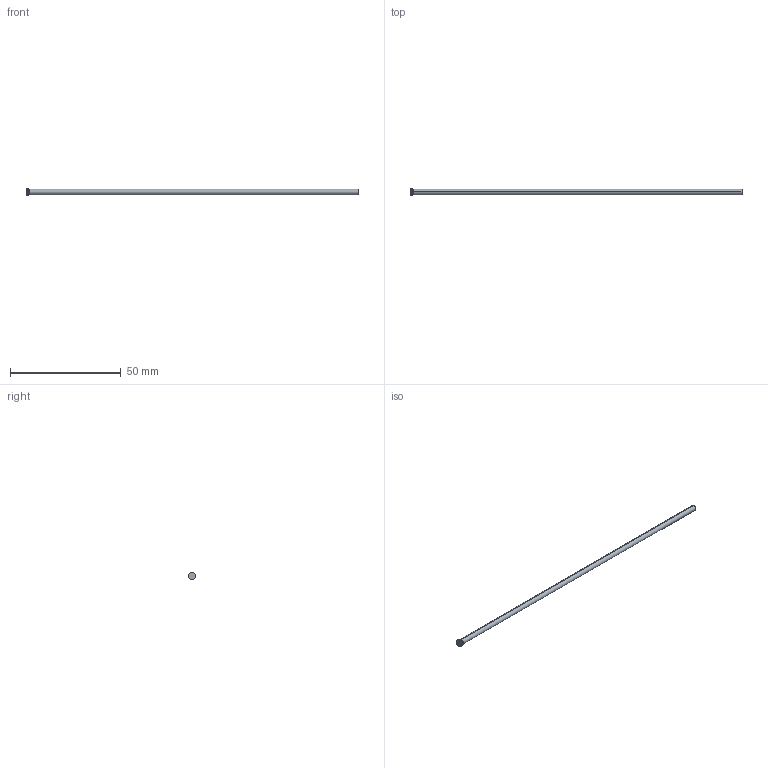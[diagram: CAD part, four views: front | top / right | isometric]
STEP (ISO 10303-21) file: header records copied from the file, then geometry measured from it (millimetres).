
FILE_DESCRIPTION (( 'STEP AP214' ), '1' );
FILE_NAME ('D-2,5x150.STEP', '2020-06-08T10:06:30', ( 'August' ), ( '' ), 'SwSTEP 2.0', 'SolidWorks 2018', '' );
FILE_SCHEMA (( 'AUTOMOTIVE_DESIGN' ));
Length unit declared in the file: millimetre
Products named in the file (1): D-2,5x150
Bounding box: 150 x 3.5 x 3.5 mm (x, y, z)
Volume: 740.7 mm3; surface area: 1196.8 mm2
Topology: 1 solids, 1 shells, 10 faces, 18 edges, 10 vertices
Faces by surface type: cylinder 4, torus 2, cone 2, plane 2
Entity records: 280 total; most frequent: DIRECTION 52, CARTESIAN_POINT 39, ORIENTED_EDGE 36, AXIS2_PLACEMENT_3D 23, EDGE_CURVE 18, CIRCLE 12, FACE_OUTER_BOUND 10, VERTEX_POINT 10
